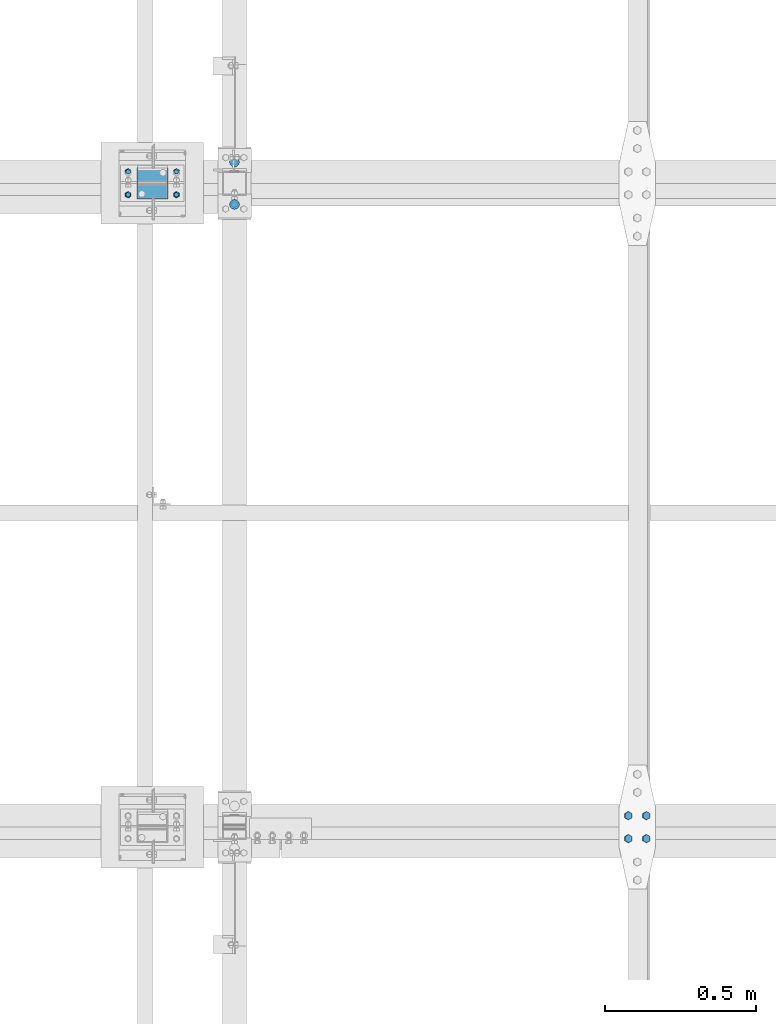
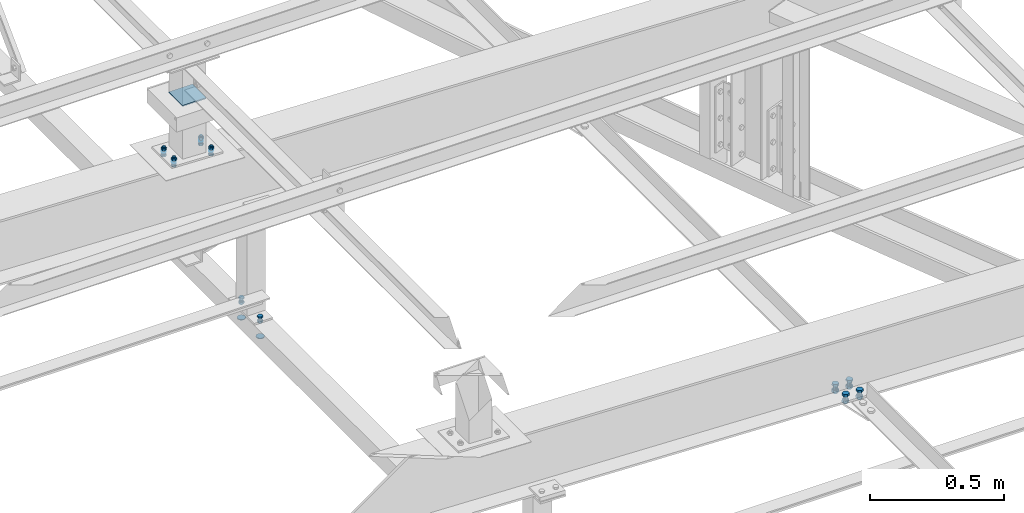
# One storey, part 41 of 3134: 6 mechanical fasteners, 4 elements without a shape of their own.
"""IFC2X3 building model written with IfcOpenShell, lengths in millimetres."""

from ifc_helpers import new_model, si_unit, frame, origin_with_axes, place, context, subcontext, project, spatial, faceted_brep, source, transform, mapped, material, type_object, element, aggregate, save


model = new_model("IFC2X3")

# Units and contexts
model_context = context("Model", 3, precision=1e-05, world=origin_with_axes())
body_context = subcontext(model_context, "Body", "Model", "MODEL_VIEW")
ifc_project = project(units=[si_unit("LENGTHUNIT", "METRE", prefix="MILLI"), si_unit("AREAUNIT", "SQUARE_METRE"), si_unit("VOLUMEUNIT", "CUBIC_METRE"), si_unit("MASSUNIT", "GRAM", prefix="KILO"), si_unit("TIMEUNIT", "SECOND"), si_unit("PLANEANGLEUNIT", "RADIAN"), si_unit("SOLIDANGLEUNIT", "STERADIAN"), si_unit("THERMODYNAMICTEMPERATUREUNIT", "DEGREE_CELSIUS"), si_unit("LUMINOUSINTENSITYUNIT", "LUMEN")], contexts=[model_context])

# Site, building, storey
site_placement = place(None, origin_with_axes())
site = spatial("IfcSite", under=ifc_project, at=site_placement, CompositionType="ELEMENT")
building_placement = place(site_placement, origin_with_axes())
building = spatial("IfcBuilding", under=site, at=building_placement, Name="Undefined", CompositionType="ELEMENT")
storey_placement = place(building_placement, origin_with_axes())
storey = spatial("IfcBuildingStorey", under=building, at=storey_placement, Name="Undefined", CompositionType="ELEMENT", Elevation=0.0)

# Assembly, mechanical fasteners
assembly_1_placement = place(storey_placement, origin_with_axes())
assembly_1 = element("IfcElementAssembly", 1, at=assembly_1_placement, inside=storey, AssemblyPlace="NOTDEFINED", PredefinedType="RIGID_FRAME")
ifc_material_1 = material(Name="8.8")
mechanical_fastener_type = type_object("IfcMechanicalFastenerType", Name="Bolt assembly")
shared_shape_1 = source(origin_with_axes(), body_context, "Body", "Brep", [
    faceted_brep([(16.5, -3.0, 0.0), (14.289419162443, -3.0, 8.25000000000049), (8.24999999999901, -3.0, 14.2894191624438), (-1.70995436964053e-12, -3.0, 16.5), (-8.25000000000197, -3.0, 14.2894191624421), (-14.2894191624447, -3.0, 8.24999999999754), (-16.5, -3.0, -3.41990873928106e-12), (-14.2894191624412, -3.0, -8.25000000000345), (-8.24999999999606, -3.0, -14.2894191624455), (5.11154442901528e-12, -3.0, -16.5), (8.25000000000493, -3.0, -14.2894191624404), (14.2894191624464, -3.0, -8.24999999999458), (14.2894191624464, 0.1, -8.24999999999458), (8.25000000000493, 0.1, -14.2894191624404), (5.11154442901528e-12, 0.1, -16.5), (-8.24999999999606, 0.1, -14.2894191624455), (-14.2894191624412, 0.1, -8.25000000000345), (-16.5, 0.1, -3.41990873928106e-12), (-14.2894191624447, 0.1, 8.24999999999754), (-8.25000000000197, 0.1, 14.2894191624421), (-1.70995436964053e-12, 0.1, 16.5), (8.24999999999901, 0.1, 14.2894191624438), (14.289419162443, 0.1, 8.25000000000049), (16.5, 0.1, 0.0)], [[[0, 1, 2, 3, 4, 5, 6, 7, 8, 9, 10, 11]], [[12, 13, 14, 15, 16, 17, 18, 19, 20, 21, 22, 23]], [[0, 23, 22, 1]], [[1, 22, 21, 2]], [[2, 21, 20, 3]], [[3, 20, 19, 4]], [[4, 19, 18, 5]], [[5, 18, 17, 6]], [[6, 17, 16, 7]], [[7, 16, 15, 8]], [[8, 15, 14, 9]], [[9, 14, 13, 10]], [[10, 13, 12, 11]], [[11, 12, 23, 0]]]),
])
mechanical_fastener_1_placement = place(assembly_1_placement, frame((3315.0, 17390.0, 3040.0), z_axis=(1.0, 0.0, 0.0), x_axis=(0.0, -1.0, 0.0)))
mechanical_fastener_1 = element("IfcMechanicalFastener", 2, at=mechanical_fastener_1_placement, type_object=mechanical_fastener_type, material=ifc_material_1, Name="Bolt assembly", NominalDiameter=30.0, NominalLength=3.0, context=body_context, shape_type="MappedRepresentation", body=[
    mapped(shared_shape_1, transform((0.0, 0.0, 0.0))),
    mapped(shared_shape_1, transform((140.0, 0.0, 0.0))),
])
shared_shape_2 = source(origin_with_axes(), body_context, "Body", "Brep", [
    faceted_brep([(10.9696551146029, -16.0, 0.0), (5.48482755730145, -16.0, 9.5), (-5.48482755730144, -16.0, 9.5), (-10.9696551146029, -16.0, 1.34339530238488e-15), (-5.48482755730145, -16.0, -9.5), (5.48482755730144, -16.0, -9.50000000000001), (5.48482755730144, -8.0, -9.50000000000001), (-5.48482755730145, -8.0, -9.5), (-10.9696551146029, -8.0, 1.34339530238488e-15), (-5.48482755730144, -8.0, 9.5), (5.48482755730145, -8.0, 9.5), (10.9696551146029, -8.0, 0.0), (6.0, -8.0, 0.0), (5.19615242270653, -8.0, 3.00000000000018), (2.99999999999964, -8.0, 5.19615242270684), (-6.21801588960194e-13, -8.0, 6.0), (-3.00000000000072, -8.0, 5.19615242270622), (-5.19615242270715, -8.0, 2.9999999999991), (-6.0, -8.0, -1.24360317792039e-12), (-5.19615242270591, -8.0, -3.00000000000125), (-2.99999999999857, -8.0, -5.19615242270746), (1.85874342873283e-12, -8.0, -6.0), (3.00000000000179, -8.0, -5.1961524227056), (5.19615242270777, -8.0, -2.99999999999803), (5.19615242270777, 17.0, -2.99999999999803), (3.00000000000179, 17.0, -5.1961524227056), (1.85874342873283e-12, 17.0, -6.0), (-2.99999999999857, 17.0, -5.19615242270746), (-5.19615242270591, 17.0, -3.00000000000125), (-6.0, 17.0, -1.24360317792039e-12), (-5.19615242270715, 17.0, 2.9999999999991), (-3.00000000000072, 17.0, 5.19615242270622), (-6.21801588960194e-13, 17.0, 6.0), (2.99999999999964, 17.0, 5.19615242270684), (5.19615242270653, 17.0, 3.00000000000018), (6.0, 17.0, 0.0), (10.9696551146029, 3.00000000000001, 0.0), (5.48482755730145, 3.00000000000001, 9.5), (-5.48482755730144, 3.00000000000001, 9.5), (-10.9696551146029, 3.00000000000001, 1.34339530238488e-15), (-5.48482755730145, 3.00000000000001, -9.5), (5.48482755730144, 3.00000000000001, -9.50000000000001), (5.48482755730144, 13.0, -9.50000000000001), (-5.48482755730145, 13.0, -9.5), (-10.9696551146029, 13.0, 1.34339530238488e-15), (-5.48482755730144, 13.0, 9.5), (5.48482755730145, 13.0, 9.5), (10.9696551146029, 13.0, 0.0)], [[[0, 1, 2, 3, 4, 5]], [[6, 7, 8, 9, 10, 11]], [[0, 11, 10, 1]], [[1, 10, 9, 2]], [[2, 9, 8, 3]], [[3, 8, 7, 4]], [[4, 7, 6, 5]], [[5, 6, 11, 0]], [[12, 13, 14, 15, 16, 17, 18, 19, 20, 21, 22, 23]], [[24, 25, 26, 27, 28, 29, 30, 31, 32, 33, 34, 35]], [[12, 35, 34, 13]], [[13, 34, 33, 14]], [[14, 33, 32, 15]], [[15, 32, 31, 16]], [[16, 31, 30, 17]], [[17, 30, 29, 18]], [[18, 29, 28, 19]], [[19, 28, 27, 20]], [[20, 27, 26, 21]], [[21, 26, 25, 22]], [[22, 25, 24, 23]], [[23, 24, 35, 12]], [[36, 37, 38, 39, 40, 41]], [[42, 43, 44, 45, 46, 47]], [[36, 47, 46, 37]], [[37, 46, 45, 38]], [[38, 45, 44, 39]], [[39, 44, 43, 40]], [[40, 43, 42, 41]], [[41, 42, 47, 36]]]),
    faceted_brep([(7.0, -7.9, 0.0), (6.06217782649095, -7.9, 3.50000000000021), (3.49999999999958, -7.9, 6.06217782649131), (-7.25435187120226e-13, -7.9, 7.0), (-3.50000000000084, -7.9, 6.06217782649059), (-6.06217782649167, -7.9, 3.49999999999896), (-7.0, -7.9, -1.45087037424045e-12), (-6.06217782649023, -7.9, -3.50000000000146), (-3.49999999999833, -7.9, -6.06217782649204), (2.1685340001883e-12, -7.9, -7.0), (3.50000000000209, -7.9, -6.06217782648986), (6.0621778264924, -7.9, -3.4999999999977), (6.0621778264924, 0.0999999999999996, -3.4999999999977), (3.50000000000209, 0.0999999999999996, -6.06217782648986), (2.1685340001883e-12, 0.0999999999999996, -7.0), (-3.49999999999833, 0.0999999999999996, -6.06217782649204), (-6.06217782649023, 0.0999999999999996, -3.50000000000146), (-7.0, 0.0999999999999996, -1.45087037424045e-12), (-6.06217782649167, 0.0999999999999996, 3.49999999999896), (-3.50000000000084, 0.0999999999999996, 6.06217782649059), (-7.25435187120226e-13, 0.0999999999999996, 7.0), (3.49999999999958, 0.0999999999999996, 6.06217782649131), (6.06217782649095, 0.0999999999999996, 3.50000000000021), (7.0, 0.0999999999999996, 0.0), (7.0, -0.1, 0.0), (6.06217782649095, -0.1, 3.50000000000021), (3.49999999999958, -0.1, 6.06217782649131), (-7.25435187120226e-13, -0.1, 7.0), (-3.50000000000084, -0.1, 6.06217782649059), (-6.06217782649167, -0.1, 3.49999999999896), (-7.0, -0.1, -1.45087037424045e-12), (-6.06217782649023, -0.1, -3.50000000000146), (-3.49999999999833, -0.1, -6.06217782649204), (2.1685340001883e-12, -0.1, -7.0), (3.50000000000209, -0.1, -6.06217782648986), (6.0621778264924, -0.1, -3.4999999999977), (6.0621778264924, 3.0, -3.4999999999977), (3.50000000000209, 3.0, -6.06217782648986), (2.1685340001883e-12, 3.0, -7.0), (-3.49999999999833, 3.0, -6.06217782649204), (-6.06217782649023, 3.0, -3.50000000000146), (-7.0, 3.0, -1.45087037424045e-12), (-6.06217782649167, 3.0, 3.49999999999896), (-3.50000000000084, 3.0, 6.06217782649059), (-7.25435187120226e-13, 3.0, 7.0), (3.49999999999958, 3.0, 6.06217782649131), (6.06217782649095, 3.0, 3.50000000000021), (7.0, 3.0, 0.0)], [[[0, 1, 2, 3, 4, 5, 6, 7, 8, 9, 10, 11]], [[12, 13, 14, 15, 16, 17, 18, 19, 20, 21, 22, 23]], [[0, 23, 22, 1]], [[1, 22, 21, 2]], [[2, 21, 20, 3]], [[3, 20, 19, 4]], [[4, 19, 18, 5]], [[5, 18, 17, 6]], [[6, 17, 16, 7]], [[7, 16, 15, 8]], [[8, 15, 14, 9]], [[9, 14, 13, 10]], [[10, 13, 12, 11]], [[11, 12, 23, 0]], [[24, 25, 26, 27, 28, 29, 30, 31, 32, 33, 34, 35]], [[36, 37, 38, 39, 40, 41, 42, 43, 44, 45, 46, 47]], [[24, 47, 46, 25]], [[25, 46, 45, 26]], [[26, 45, 44, 27]], [[27, 44, 43, 28]], [[28, 43, 42, 29]], [[29, 42, 41, 30]], [[30, 41, 40, 31]], [[31, 40, 39, 32]], [[32, 39, 38, 33]], [[33, 38, 37, 34]], [[34, 37, 36, 35]], [[35, 36, 47, 24]]]),
])
mechanical_fastener_2_placement = place(assembly_1_placement, frame((3315.0, 17390.0, 3120.0), z_axis=(1.0, 0.0, 0.0), x_axis=(0.0, -1.0, 0.0)))
mechanical_fastener_2 = element("IfcMechanicalFastener", 3, at=mechanical_fastener_2_placement, type_object=mechanical_fastener_type, material=ifc_material_1, Name="Bolt assembly", NominalDiameter=12.0, NominalLength=25.0, context=body_context, shape_type="MappedRepresentation", body=[
    mapped(shared_shape_2, transform((0.0, 0.0, 0.0))),
    mapped(shared_shape_2, transform((140.0, 0.0, 0.0))),
])
aggregate(assembly_1, [mechanical_fastener_2, mechanical_fastener_1])

# Assembly, mechanical fastener
assembly_2_placement = place(storey_placement, origin_with_axes())
assembly_2 = element("IfcElementAssembly", 4, at=assembly_2_placement, inside=storey, Name="PL8", AssemblyPlace="NOTDEFINED", PredefinedType="RIGID_FRAME")
shared_shape_3 = source(origin_with_axes(), body_context, "Body", "Brep", [
    faceted_brep([(13.856406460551, -23.2000817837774, 0.0), (6.92820323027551, -23.2000817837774, 12.0), (-6.92820323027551, -23.2000817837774, 12.0), (-13.856406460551, -23.2000817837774, 1.69692038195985e-15), (-6.92820323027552, -23.2000817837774, -12.0), (6.9282032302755, -23.2000817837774, -12.0), (6.9282032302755, -13.2000817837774, -12.0), (-6.92820323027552, -13.2000817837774, -12.0), (-13.856406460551, -13.2000817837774, 1.69692038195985e-15), (-6.92820323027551, -13.2000817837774, 12.0), (6.92820323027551, -13.2000817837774, 12.0), (13.856406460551, -13.2000817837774, 0.0), (8.0, -13.2000817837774, 0.0), (6.92820323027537, -13.2000817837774, 4.00000000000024), (3.99999999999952, -13.2000817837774, 6.92820323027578), (-8.29068785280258e-13, -13.2000817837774, 8.0), (-4.00000000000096, -13.2000817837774, 6.92820323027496), (-6.9282032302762, -13.2000817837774, 3.99999999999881), (-8.0, -13.2000817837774, -1.65813757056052e-12), (-6.92820323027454, -13.2000817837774, -4.00000000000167), (-3.99999999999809, -13.2000817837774, -6.92820323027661), (2.47832457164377e-12, -13.2000817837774, -8.0), (4.00000000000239, -13.2000817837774, -6.92820323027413), (6.92820323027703, -13.2000817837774, -3.99999999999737), (6.92820323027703, 21.7999182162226, -3.99999999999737), (4.00000000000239, 21.7999182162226, -6.92820323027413), (2.47832457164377e-12, 21.7999182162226, -8.0), (-3.99999999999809, 21.7999182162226, -6.92820323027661), (-6.92820323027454, 21.7999182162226, -4.00000000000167), (-8.0, 21.7999182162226, -1.65813757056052e-12), (-6.9282032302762, 21.7999182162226, 3.99999999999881), (-4.00000000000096, 21.7999182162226, 6.92820323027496), (-8.29068785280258e-13, 21.7999182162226, 8.0), (3.99999999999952, 21.7999182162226, 6.92820323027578), (6.92820323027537, 21.7999182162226, 4.00000000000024), (8.0, 21.7999182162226, 0.0), (13.856406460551, 3.99999999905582, 0.0), (6.92820323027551, 3.99999999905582, 12.0), (-6.92820323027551, 3.99999999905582, 12.0), (-13.856406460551, 3.99999999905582, 1.69692038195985e-15), (-6.92820323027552, 3.99999999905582, -12.0), (6.9282032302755, 3.99999999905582, -12.0), (6.9282032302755, 16.9999999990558, -12.0), (-6.92820323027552, 16.9999999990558, -12.0), (-13.856406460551, 16.9999999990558, 1.69692038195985e-15), (-6.92820323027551, 16.9999999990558, 12.0), (6.92820323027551, 16.9999999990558, 12.0), (13.856406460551, 16.9999999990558, 0.0)], [[[0, 1, 2, 3, 4, 5]], [[6, 7, 8, 9, 10, 11]], [[0, 11, 10, 1]], [[1, 10, 9, 2]], [[2, 9, 8, 3]], [[3, 8, 7, 4]], [[4, 7, 6, 5]], [[5, 6, 11, 0]], [[12, 13, 14, 15, 16, 17, 18, 19, 20, 21, 22, 23]], [[24, 25, 26, 27, 28, 29, 30, 31, 32, 33, 34, 35]], [[12, 35, 34, 13]], [[13, 34, 33, 14]], [[14, 33, 32, 15]], [[15, 32, 31, 16]], [[16, 31, 30, 17]], [[17, 30, 29, 18]], [[18, 29, 28, 19]], [[19, 28, 27, 20]], [[20, 27, 26, 21]], [[21, 26, 25, 22]], [[22, 25, 24, 23]], [[23, 24, 35, 12]], [[36, 37, 38, 39, 40, 41]], [[42, 43, 44, 45, 46, 47]], [[36, 47, 46, 37]], [[37, 46, 45, 38]], [[38, 45, 44, 39]], [[39, 44, 43, 40]], [[40, 43, 42, 41]], [[41, 42, 47, 36]]]),
    faceted_brep([(9.0, -13.1000817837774, 0.0), (7.79422863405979, -13.1000817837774, 4.50000000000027), (4.49999999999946, -13.1000817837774, 7.79422863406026), (-9.3270238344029e-13, -13.1000817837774, 9.0), (-4.50000000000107, -13.1000817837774, 7.79422863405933), (-7.79422863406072, -13.1000817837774, 4.49999999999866), (-9.0, -13.1000817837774, -1.86540476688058e-12), (-7.79422863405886, -13.1000817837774, -4.50000000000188), (-4.49999999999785, -13.1000817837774, -7.79422863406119), (2.78811514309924e-12, -13.1000817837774, -9.0), (4.50000000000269, -13.1000817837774, -7.7942286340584), (7.79422863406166, -13.1000817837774, -4.49999999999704), (7.79422863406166, -3.90008197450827, -4.49999999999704), (4.50000000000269, -3.90008197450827, -7.7942286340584), (2.78811514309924e-12, -3.90008197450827, -9.0), (-4.49999999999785, -3.90008197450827, -7.79422863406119), (-7.79422863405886, -3.90008197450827, -4.50000000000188), (-9.0, -3.90008197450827, -1.86540476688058e-12), (-7.79422863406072, -3.90008197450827, 4.49999999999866), (-4.50000000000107, -3.90008197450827, 7.79422863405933), (-9.3270238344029e-13, -3.90008197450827, 9.0), (4.49999999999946, -3.90008197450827, 7.79422863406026), (7.79422863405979, -3.90008197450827, 4.50000000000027), (9.0, -3.90008197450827, 0.0), (9.0, -4.10000000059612, 0.0), (7.79422863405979, -4.10000000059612, 4.50000000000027), (4.49999999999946, -4.10000000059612, 7.79422863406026), (-9.3270238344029e-13, -4.10000000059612, 9.0), (-4.50000000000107, -4.10000000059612, 7.79422863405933), (-7.79422863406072, -4.10000000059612, 4.49999999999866), (-9.0, -4.10000000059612, -1.86540476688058e-12), (-7.79422863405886, -4.10000000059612, -4.50000000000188), (-4.49999999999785, -4.10000000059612, -7.79422863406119), (2.78811514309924e-12, -4.10000000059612, -9.0), (4.50000000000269, -4.10000000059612, -7.7942286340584), (7.79422863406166, -4.10000000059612, -4.49999999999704), (7.79422863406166, 4.00000375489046, -4.49999999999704), (4.50000000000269, 4.00000375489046, -7.7942286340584), (2.78811514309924e-12, 4.00000375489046, -9.0), (-4.49999999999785, 4.00000375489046, -7.79422863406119), (-7.79422863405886, 4.00000375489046, -4.50000000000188), (-9.0, 4.00000375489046, -1.86540476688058e-12), (-7.79422863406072, 4.00000375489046, 4.49999999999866), (-4.50000000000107, 4.00000375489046, 7.79422863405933), (-9.3270238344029e-13, 4.00000375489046, 9.0), (4.49999999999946, 4.00000375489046, 7.79422863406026), (7.79422863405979, 4.00000375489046, 4.50000000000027), (9.0, 4.00000375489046, 0.0)], [[[0, 1, 2, 3, 4, 5, 6, 7, 8, 9, 10, 11]], [[12, 13, 14, 15, 16, 17, 18, 19, 20, 21, 22, 23]], [[0, 23, 22, 1]], [[1, 22, 21, 2]], [[2, 21, 20, 3]], [[3, 20, 19, 4]], [[4, 19, 18, 5]], [[5, 18, 17, 6]], [[6, 17, 16, 7]], [[7, 16, 15, 8]], [[8, 15, 14, 9]], [[9, 14, 13, 10]], [[10, 13, 12, 11]], [[11, 12, 23, 0]], [[24, 25, 26, 27, 28, 29, 30, 31, 32, 33, 34, 35]], [[36, 37, 38, 39, 40, 41, 42, 43, 44, 45, 46, 47]], [[24, 47, 46, 25]], [[25, 46, 45, 26]], [[26, 45, 44, 27]], [[27, 44, 43, 28]], [[28, 43, 42, 29]], [[29, 42, 41, 30]], [[30, 41, 40, 31]], [[31, 40, 39, 32]], [[32, 39, 38, 33]], [[33, 38, 37, 34]], [[34, 37, 36, 35]], [[35, 36, 47, 24]]]),
])
mechanical_fastener_3_placement = place(assembly_2_placement, frame((4647.50483519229, 15152.0, 3576.15051900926), z_axis=(-0.999388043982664, 0.0, 0.0349791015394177), x_axis=(0.0, 1.0, 0.0)))
mechanical_fastener_3 = element("IfcMechanicalFastener", 5, at=mechanical_fastener_3_placement, type_object=mechanical_fastener_type, material=ifc_material_1, Name="Bolt assembly", NominalDiameter=16.0, NominalLength=35.0, context=body_context, shape_type="MappedRepresentation", body=[
    mapped(shared_shape_3, transform((0.0, 4.54747350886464e-13, -30.0000000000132))),
    mapped(shared_shape_3, transform((76.0, -2.00088834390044e-10, -29.9999999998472))),
    mapped(shared_shape_3, transform((0.0, 4.54747350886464e-13, 30.0000000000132))),
    mapped(shared_shape_3, transform((76.0, 1.98269844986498e-10, 29.9999999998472))),
])
aggregate(assembly_2, [mechanical_fastener_3])

assembly_3_placement = place(storey_placement, origin_with_axes())
assembly_3 = element("IfcElementAssembly", 6, at=assembly_3_placement, inside=storey, AssemblyPlace="NOTDEFINED", PredefinedType="RIGID_FRAME")
shared_shape_4 = source(origin_with_axes(), body_context, "Body", "Brep", [
    faceted_brep([(10.9696551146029, -4.1972538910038, 0.0), (5.48482755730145, -4.1972538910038, 9.5), (-5.48482755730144, -4.1972538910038, 9.5), (-10.9696551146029, -4.1972538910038, 1.34339530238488e-15), (-5.48482755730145, -4.1972538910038, -9.5), (5.48482755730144, -4.1972538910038, -9.50000000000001), (5.48482755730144, 3.8027461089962, -9.50000000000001), (-5.48482755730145, 3.8027461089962, -9.5), (-10.9696551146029, 3.8027461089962, 1.34339530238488e-15), (-5.48482755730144, 3.8027461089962, 9.5), (5.48482755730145, 3.8027461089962, 9.5), (10.9696551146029, 3.8027461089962, 0.0), (6.0, 3.8027461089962, 0.0), (5.19615242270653, 3.8027461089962, 3.00000000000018), (2.99999999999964, 3.8027461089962, 5.19615242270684), (-6.21801588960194e-13, 3.8027461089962, 6.0), (-3.00000000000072, 3.8027461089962, 5.19615242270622), (-5.19615242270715, 3.8027461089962, 2.9999999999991), (-6.0, 3.8027461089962, -1.24360317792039e-12), (-5.19615242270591, 3.8027461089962, -3.00000000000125), (-2.99999999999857, 3.8027461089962, -5.19615242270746), (1.85874342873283e-12, 3.8027461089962, -6.0), (3.00000000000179, 3.8027461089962, -5.1961524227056), (5.19615242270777, 3.8027461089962, -2.99999999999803), (5.19615242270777, 38.8027461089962, -2.99999999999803), (3.00000000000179, 38.8027461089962, -5.1961524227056), (1.85874342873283e-12, 38.8027461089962, -6.0), (-2.99999999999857, 38.8027461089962, -5.19615242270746), (-5.19615242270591, 38.8027461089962, -3.00000000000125), (-6.0, 38.8027461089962, -1.24360317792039e-12), (-5.19615242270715, 38.8027461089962, 2.9999999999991), (-3.00000000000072, 38.8027461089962, 5.19615242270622), (-6.21801588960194e-13, 38.8027461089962, 6.0), (2.99999999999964, 38.8027461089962, 5.19615242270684), (5.19615242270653, 38.8027461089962, 3.00000000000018), (6.0, 38.8027461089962, 0.0), (10.9696551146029, 23.0139082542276, 0.0), (5.48482755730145, 23.0139082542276, 9.5), (-5.48482755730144, 23.0139082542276, 9.5), (-10.9696551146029, 23.0139082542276, 1.34339530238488e-15), (-5.48482755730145, 23.0139082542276, -9.5), (5.48482755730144, 23.0139082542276, -9.50000000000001), (5.48482755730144, 33.0139082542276, -9.50000000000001), (-5.48482755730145, 33.0139082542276, -9.5), (-10.9696551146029, 33.0139082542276, 1.34339530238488e-15), (-5.48482755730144, 33.0139082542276, 9.5), (5.48482755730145, 33.0139082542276, 9.5), (10.9696551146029, 33.0139082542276, 0.0)], [[[0, 1, 2, 3, 4, 5]], [[6, 7, 8, 9, 10, 11]], [[0, 11, 10, 1]], [[1, 10, 9, 2]], [[2, 9, 8, 3]], [[3, 8, 7, 4]], [[4, 7, 6, 5]], [[5, 6, 11, 0]], [[12, 13, 14, 15, 16, 17, 18, 19, 20, 21, 22, 23]], [[24, 25, 26, 27, 28, 29, 30, 31, 32, 33, 34, 35]], [[12, 35, 34, 13]], [[13, 34, 33, 14]], [[14, 33, 32, 15]], [[15, 32, 31, 16]], [[16, 31, 30, 17]], [[17, 30, 29, 18]], [[18, 29, 28, 19]], [[19, 28, 27, 20]], [[20, 27, 26, 21]], [[21, 26, 25, 22]], [[22, 25, 24, 23]], [[23, 24, 35, 12]], [[36, 37, 38, 39, 40, 41]], [[42, 43, 44, 45, 46, 47]], [[36, 47, 46, 37]], [[37, 46, 45, 38]], [[38, 45, 44, 39]], [[39, 44, 43, 40]], [[40, 43, 42, 41]], [[41, 42, 47, 36]]]),
    faceted_brep([(7.0, 3.9027461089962, 0.0), (6.06217782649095, 3.9027461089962, 3.50000000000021), (3.49999999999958, 3.9027461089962, 6.06217782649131), (-7.25435187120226e-13, 3.9027461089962, 7.0), (-3.50000000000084, 3.9027461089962, 6.06217782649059), (-6.06217782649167, 3.9027461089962, 3.49999999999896), (-7.0, 3.9027461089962, -1.45087037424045e-12), (-6.06217782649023, 3.9027461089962, -3.50000000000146), (-3.49999999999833, 3.9027461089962, -6.06217782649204), (2.1685340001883e-12, 3.9027461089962, -7.0), (3.50000000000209, 3.9027461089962, -6.06217782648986), (6.0621778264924, 3.9027461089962, -3.4999999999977), (6.0621778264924, 13.1027459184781, -3.4999999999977), (3.50000000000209, 13.1027459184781, -6.06217782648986), (2.1685340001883e-12, 13.1027459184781, -7.0), (-3.49999999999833, 13.1027459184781, -6.06217782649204), (-6.06217782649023, 13.1027459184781, -3.50000000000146), (-7.0, 13.1027459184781, -1.45087037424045e-12), (-6.06217782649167, 13.1027459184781, 3.49999999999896), (-3.50000000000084, 13.1027459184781, 6.06217782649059), (-7.25435187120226e-13, 13.1027459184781, 7.0), (3.49999999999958, 13.1027459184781, 6.06217782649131), (6.06217782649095, 13.1027459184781, 3.50000000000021), (7.0, 13.1027459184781, 0.0), (7.0, 14.9139082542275, 0.0), (6.06217782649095, 14.9139082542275, 3.50000000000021), (3.49999999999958, 14.9139082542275, 6.06217782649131), (-7.25435187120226e-13, 14.9139082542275, 7.0), (-3.50000000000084, 14.9139082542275, 6.06217782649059), (-6.06217782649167, 14.9139082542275, 3.49999999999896), (-7.0, 14.9139082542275, -1.45087037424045e-12), (-6.06217782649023, 14.9139082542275, -3.50000000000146), (-3.49999999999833, 14.9139082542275, -6.06217782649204), (2.1685340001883e-12, 14.9139082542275, -7.0), (3.50000000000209, 14.9139082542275, -6.06217782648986), (6.0621778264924, 14.9139082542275, -3.4999999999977), (6.0621778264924, 23.0139082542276, -3.4999999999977), (3.50000000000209, 23.0139082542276, -6.06217782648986), (2.1685340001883e-12, 23.0139082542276, -7.0), (-3.49999999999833, 23.0139082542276, -6.06217782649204), (-6.06217782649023, 23.0139082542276, -3.50000000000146), (-7.0, 23.0139082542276, -1.45087037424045e-12), (-6.06217782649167, 23.0139082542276, 3.49999999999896), (-3.50000000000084, 23.0139082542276, 6.06217782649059), (-7.25435187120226e-13, 23.0139082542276, 7.0), (3.49999999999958, 23.0139082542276, 6.06217782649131), (6.06217782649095, 23.0139082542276, 3.50000000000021), (7.0, 23.0139082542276, 0.0)], [[[0, 1, 2, 3, 4, 5, 6, 7, 8, 9, 10, 11]], [[12, 13, 14, 15, 16, 17, 18, 19, 20, 21, 22, 23]], [[0, 23, 22, 1]], [[1, 22, 21, 2]], [[2, 21, 20, 3]], [[3, 20, 19, 4]], [[4, 19, 18, 5]], [[5, 18, 17, 6]], [[6, 17, 16, 7]], [[7, 16, 15, 8]], [[8, 15, 14, 9]], [[9, 14, 13, 10]], [[10, 13, 12, 11]], [[11, 12, 23, 0]], [[24, 25, 26, 27, 28, 29, 30, 31, 32, 33, 34, 35]], [[36, 37, 38, 39, 40, 41, 42, 43, 44, 45, 46, 47]], [[24, 47, 46, 25]], [[25, 46, 45, 26]], [[26, 45, 44, 27]], [[27, 44, 43, 28]], [[28, 43, 42, 29]], [[29, 42, 41, 30]], [[30, 41, 40, 31]], [[31, 40, 39, 32]], [[32, 39, 38, 33]], [[33, 38, 37, 34]], [[34, 37, 36, 35]], [[35, 36, 47, 24]]]),
])
mechanical_fastener_4_placement = place(assembly_3_placement, frame((3042.5231765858, 17357.9999999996, 3920.50000668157), z_axis=(-0.999387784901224, 0.0, 0.0349865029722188), x_axis=(0.0, -1.0, 0.0)))
mechanical_fastener_4 = element("IfcMechanicalFastener", 7, at=mechanical_fastener_4_placement, type_object=mechanical_fastener_type, material=ifc_material_1, Name="Bolt assembly", NominalDiameter=12.0, NominalLength=35.0, context=body_context, shape_type="MappedRepresentation", body=[
    mapped(shared_shape_4, transform((0.0, -5.32963895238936e-10, -79.9999999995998))),
    mapped(shared_shape_4, transform((76.0, -5.32963895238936e-10, -79.9999999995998))),
    mapped(shared_shape_4, transform((0.0, 5.3114490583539e-10, 79.9999999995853))),
    mapped(shared_shape_4, transform((76.0, 5.3114490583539e-10, 79.9999999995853))),
])

assembly_4_placement = place(storey_placement, origin_with_axes())
assembly_4 = element("IfcElementAssembly", 8, at=assembly_4_placement, inside=storey, AssemblyPlace="NOTDEFINED", PredefinedType="RIGID_FRAME")
shared_shape_5 = source(origin_with_axes(), body_context, "Body", "Brep", [
    faceted_brep([(7.0, 13.0000253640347, 0.0), (6.06217782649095, 13.0000253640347, 3.50000000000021), (3.49999999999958, 13.0000253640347, 6.06217782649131), (-7.25435187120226e-13, 13.0000253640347, 7.0), (-3.50000000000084, 13.0000253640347, 6.06217782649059), (-6.06217782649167, 13.0000253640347, 3.49999999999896), (-7.0, 13.0000253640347, -1.45087037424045e-12), (-6.06217782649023, 13.0000253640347, -3.50000000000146), (-3.49999999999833, 13.0000253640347, -6.06217782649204), (2.1685340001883e-12, 13.0000253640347, -7.0), (3.50000000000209, 13.0000253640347, -6.06217782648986), (6.0621778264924, 13.0000253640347, -3.4999999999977), (6.0621778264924, 15.0999999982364, -3.4999999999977), (3.50000000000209, 15.0999999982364, -6.06217782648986), (2.1685340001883e-12, 15.0999999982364, -7.0), (-3.49999999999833, 15.0999999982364, -6.06217782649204), (-6.06217782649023, 15.0999999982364, -3.50000000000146), (-7.0, 15.0999999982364, -1.45087037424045e-12), (-6.06217782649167, 15.0999999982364, 3.49999999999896), (-3.50000000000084, 15.0999999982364, 6.06217782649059), (-7.25435187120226e-13, 15.0999999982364, 7.0), (3.49999999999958, 15.0999999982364, 6.06217782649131), (6.06217782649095, 15.0999999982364, 3.50000000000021), (7.0, 15.0999999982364, 0.0)], [[[0, 1, 2, 3, 4, 5, 6, 7, 8, 9, 10, 11]], [[12, 13, 14, 15, 16, 17, 18, 19, 20, 21, 22, 23]], [[0, 23, 22, 1]], [[1, 22, 21, 2]], [[2, 21, 20, 3]], [[3, 20, 19, 4]], [[4, 19, 18, 5]], [[5, 18, 17, 6]], [[6, 17, 16, 7]], [[7, 16, 15, 8]], [[8, 15, 14, 9]], [[9, 14, 13, 10]], [[10, 13, 12, 11]], [[11, 12, 23, 0]]]),
])
mechanical_fastener_5_placement = place(assembly_4_placement, frame((3042.5231765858, 17357.9999999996, 3920.50000668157), z_axis=(-0.999387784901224, 0.0, 0.0349865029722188), x_axis=(0.0, -1.0, 0.0)))
mechanical_fastener_5 = element("IfcMechanicalFastener", 9, at=mechanical_fastener_5_placement, type_object=mechanical_fastener_type, material=ifc_material_1, Name="Bolt assembly", NominalDiameter=12.0, NominalLength=2.0, context=body_context, shape_type="MappedRepresentation", body=[
    mapped(shared_shape_5, transform((0.0, -5.32963895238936e-10, -79.9999999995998))),
    mapped(shared_shape_5, transform((76.0, -5.32963895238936e-10, -79.9999999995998))),
    mapped(shared_shape_5, transform((0.0, 5.3114490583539e-10, 79.9999999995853))),
    mapped(shared_shape_5, transform((76.0, 5.3114490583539e-10, 79.9999999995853))),
])
aggregate(assembly_4, [mechanical_fastener_5])

# Mechanical fastener
ifc_material_2 = material(Name="6.8")
shared_shape_6 = source(origin_with_axes(), body_context, "Body", "Brep", [
    faceted_brep([(51.5, 1.36424205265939e-12, 50.0), (51.3858192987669, 1.36424205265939e-12, 50.5740251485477), (51.0606601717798, 1.36424205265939e-12, 51.0606601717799), (50.5740251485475, 1.36424205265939e-12, 51.385819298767), (-50.0000000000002, 1.36424205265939e-12, 51.5), (-50.7500000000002, 1.36424205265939e-12, 51.2990381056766), (-51.2990381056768, 1.36424205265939e-12, 50.7499999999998), (-51.5, 1.36424205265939e-12, 49.9999999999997), (-51.5, 1.36424205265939e-12, -50.0000000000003), (-51.2990381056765, 1.36424205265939e-12, -50.7500000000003), (-50.7499999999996, 1.36424205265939e-12, -51.2990381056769), (-49.9999999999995, 1.36424205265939e-12, -51.5), (50.0000000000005, 1.36424205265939e-12, -51.5), (50.7500000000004, 1.36424205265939e-12, -51.2990381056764), (51.2990381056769, 1.36424205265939e-12, -50.7499999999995), (51.5, 1.36424205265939e-12, -49.9999999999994), (51.5, 5.10000000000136, -49.9999999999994), (51.2990381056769, 5.10000000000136, -50.7499999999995), (50.7500000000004, 5.10000000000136, -51.2990381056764), (50.0000000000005, 5.10000000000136, -51.5), (-49.9999999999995, 5.10000000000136, -51.5), (-50.7499999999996, 5.10000000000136, -51.2990381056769), (-51.2990381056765, 5.10000000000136, -50.7500000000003), (-51.5, 5.10000000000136, -50.0000000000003), (-51.5, 5.10000000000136, 49.9999999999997), (-51.2990381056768, 5.10000000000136, 50.7499999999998), (-50.7500000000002, 5.10000000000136, 51.2990381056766), (-50.0000000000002, 5.10000000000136, 51.5), (50.5740251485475, 5.10000000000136, 51.385819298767), (51.0606601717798, 5.10000000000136, 51.0606601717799), (51.3858192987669, 5.10000000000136, 50.5740251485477), (51.5, 5.10000000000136, 50.0)], [[[0, 1, 2, 3, 4, 5, 6, 7, 8, 9, 10, 11, 12, 13, 14, 15]], [[16, 17, 18, 19, 20, 21, 22, 23, 24, 25, 26, 27, 28, 29, 30, 31]], [[0, 31, 30, 1]], [[1, 30, 29, 2]], [[2, 29, 28, 3]], [[3, 28, 27, 4]], [[4, 27, 26, 5]], [[5, 26, 25, 6]], [[6, 25, 24, 7]], [[7, 24, 23, 8]], [[8, 23, 22, 9]], [[9, 22, 21, 10]], [[10, 21, 20, 11]], [[11, 20, 19, 12]], [[12, 19, 18, 13]], [[13, 18, 17, 14]], [[14, 17, 16, 15]], [[15, 16, 31, 0]]]),
])
mechanical_fastener_6_placement = place(assembly_3_placement, frame((3043.33, 17320.0, 4190.29), z_axis=(0.0, -1.0, 0.0), x_axis=(-1.0, 0.0, 0.0)))
mechanical_fastener_6 = element("IfcMechanicalFastener", 10, at=mechanical_fastener_6_placement, type_object=mechanical_fastener_type, material=ifc_material_2, Name="Bolt assembly", NominalDiameter=10.0, NominalLength=5.0, context=body_context, shape_type="MappedRepresentation", body=[
    mapped(shared_shape_6, transform((0.0, 0.0, 0.0))),
])

aggregate(assembly_3, [mechanical_fastener_4, mechanical_fastener_6])

save(model, "model.ifc")
